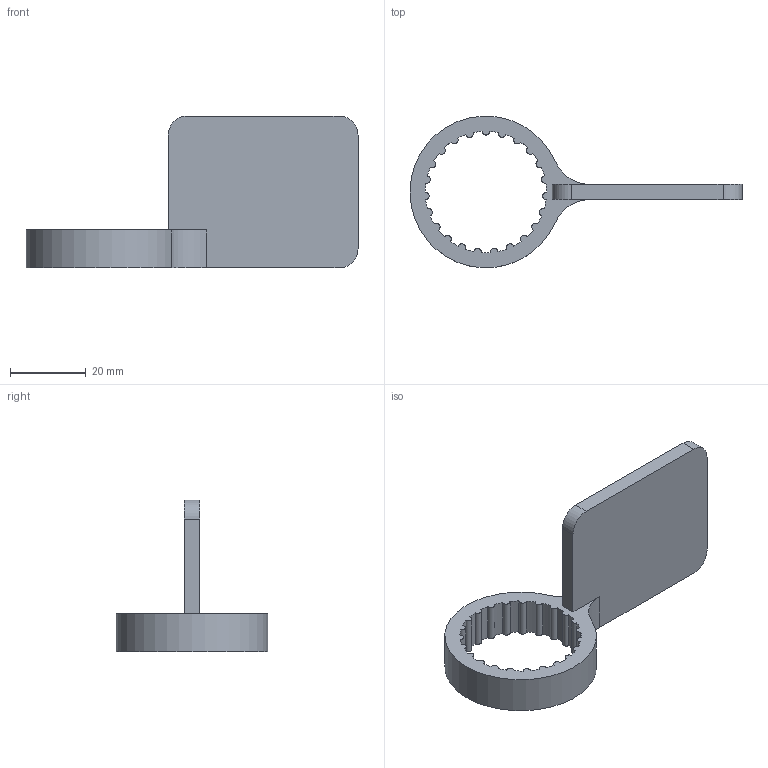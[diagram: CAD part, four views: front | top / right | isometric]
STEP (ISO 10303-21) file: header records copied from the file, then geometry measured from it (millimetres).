
FILE_DESCRIPTION(/* description */ (''),/* implementation_level */ '2;1');
FILE_NAME(/* name */ '',/* time_stamp */ '2026-04-10T14:24:02+02:00',/* author */ (''),/* organization */ (''),/* preprocessor_version */ 'ST-DEVELOPER v20.1',/* originating_system */ 'Autodesk Translation Framework v14.24.0.0',/* authorisation */ '');
FILE_SCHEMA (('AUTOMOTIVE_DESIGN { 1 0 10303 214 3 1 1 }'));
Length unit declared in the file: millimetre
Products named in the file (1): (Niezapisany)
Bounding box: 87.5 x 39.98 x 40 mm (x, y, z)
Volume: 12910.3 mm3; surface area: 7994.4 mm2
Topology: 1 solids, 1 shells, 59 faces, 171 edges, 114 vertices
Faces by surface type: cylinder 52, plane 7
Entity records: 2046 total; most frequent: DIRECTION 395, CARTESIAN_POINT 345, ORIENTED_EDGE 342, EDGE_CURVE 171, AXIS2_PLACEMENT_3D 164, VERTEX_POINT 114, CIRCLE 104, LINE 67
